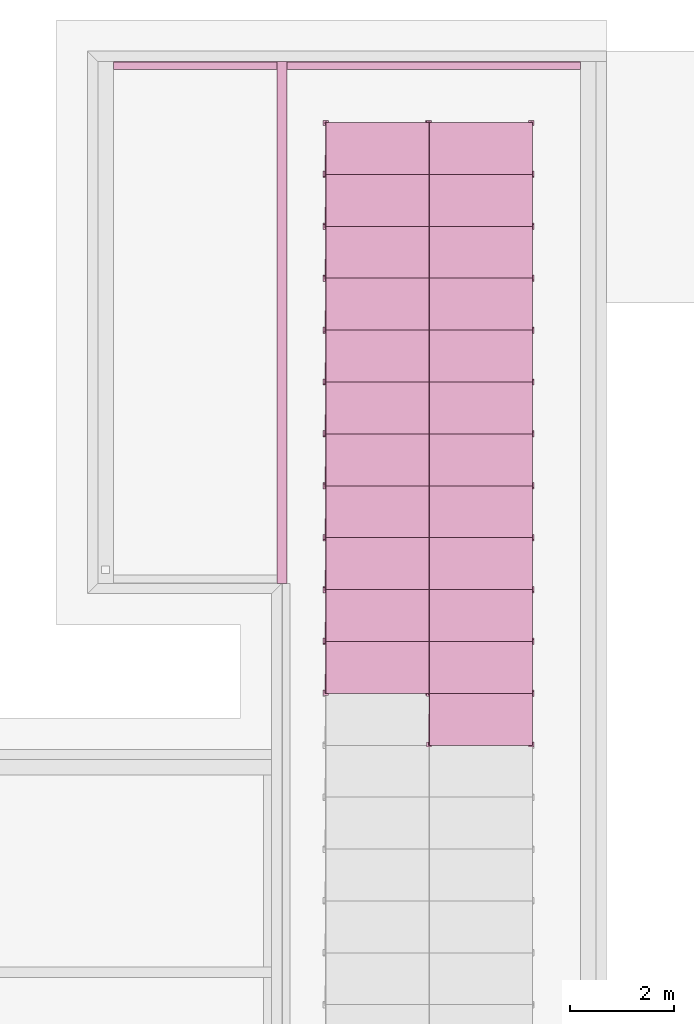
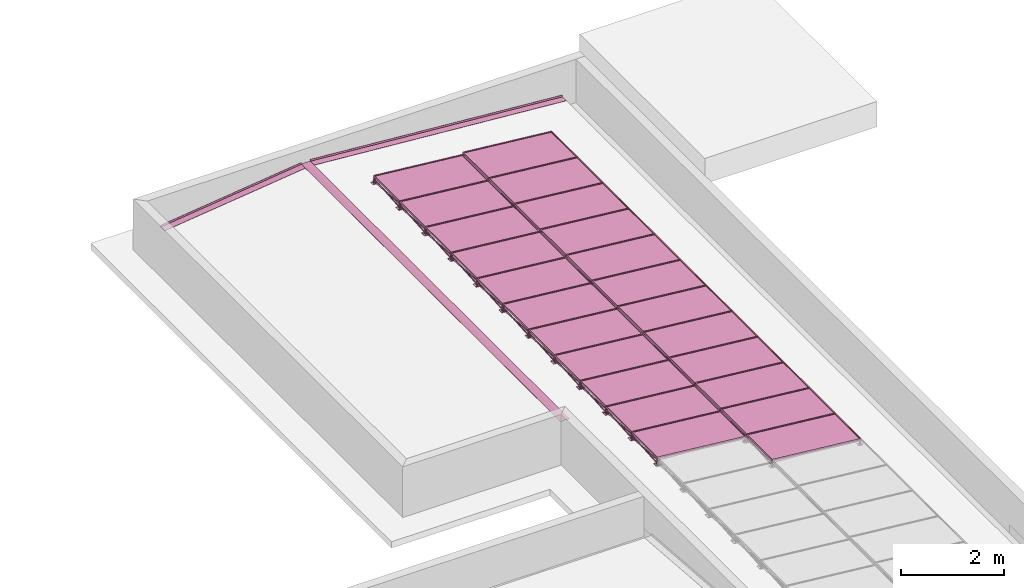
# One storey, part 5 of 5: 26 furnishings.
"""IFC2X3 building model written with IfcOpenShell, lengths in millimetres."""

import ifcopenshell
import ifcopenshell.guid

model = None  # the IFC model being written
_history = None  # IfcOwnerHistory: only IFC2X3 demands one
_inside = {}  # id of a spatial element -> (the spatial element, [elements in it])
_under = {}  # id of a project, library or spatial element -> (it, [spatial elements below it])
_declared = {}  # id of a project -> (the project, [libraries it declares])
_typed = {}  # id of a type object -> (the type object, [elements of that type])
_made_of = {}  # id of a material, layer set ... -> (it, [elements and type objects made of it])


def new_model(schema):
    """Start an empty IFC model of exactly this schema.

    Asked for "IFC4X3", IfcOpenShell would pick the latest addendum, in which some entities
    have other attributes; the version numbers below select the first issue.
    IFC2X3 requires an IfcOwnerHistory on every rooted entity: one is made here for all.
    """
    global model, _history
    if schema == "IFC4X3":
        model = ifcopenshell.file(schema_version=(4, 3, 0, 0))
    else:
        model = ifcopenshell.file(schema=schema)
    _inside.clear()
    _under.clear()
    _declared.clear()
    _typed.clear()
    _made_of.clear()
    _history = None
    if model.schema == "IFC2X3":
        org = make("IfcOrganization", Name="unknown")
        user = make(
            "IfcPersonAndOrganization",
            ThePerson=make("IfcPerson", FamilyName="unknown"),
            TheOrganization=org,
        )
        app = make(
            "IfcApplication",
            ApplicationDeveloper=org,
            Version="unknown",
            ApplicationFullName="unknown",
            ApplicationIdentifier="unknown",
        )
        _history = make(
            "IfcOwnerHistory",
            OwningUser=user,
            OwningApplication=app,
            ChangeAction="ADDED",
            CreationDate=0,
        )
    return model


def make(cls, **values):
    """One entity of the class cls with the attributes given. An attribute that is None is left unset."""
    return model.create_entity(
        cls, **{name: value for name, value in values.items() if value is not None}
    )


def entity(cls, *values):
    """Any entity or typed value of the class cls, its attributes in the order of the schema. None: left unset."""
    e = model.create_entity(cls)
    for i, value in enumerate(values):
        if value is not None:
            e[i] = value
    return e


def rooted(cls, **values):
    """An entity with a GlobalId (a new one), such as an element, a storey or a relation."""
    return make(cls, GlobalId=ifcopenshell.guid.new(), OwnerHistory=_history, **values)


def si_unit(unit_type, name, prefix=None):
    """IfcSIUnit, for example si_unit("LENGTHUNIT", "METRE", prefix="MILLI")."""
    return make("IfcSIUnit", UnitType=unit_type, Prefix=prefix, Name=name)


def converted_unit(unit_type, name, factor, base, dimensions=None, offset=None):
    """IfcConversionBasedUnit, such as the inch: factor (a typed value) times the base unit."""
    return make(
        "IfcConversionBasedUnit"
        if offset is None
        else "IfcConversionBasedUnitWithOffset",
        ConversionOffset=offset,
        Dimensions=None
        if dimensions is None
        else entity("IfcDimensionalExponents", *dimensions),
        UnitType=unit_type,
        Name=name,
        ConversionFactor=make(
            "IfcMeasureWithUnit", ValueComponent=factor, UnitComponent=base
        ),
    )


def derived_unit(unit_type, elements):
    """IfcDerivedUnit: a product of units, each with its exponent."""
    return make(
        "IfcDerivedUnit",
        Elements=[
            make("IfcDerivedUnitElement", Unit=unit, Exponent=power)
            for unit, power in elements
        ],
        UnitType=unit_type,
    )


def money_unit(currency):
    """IfcMonetaryUnit."""
    return make("IfcMonetaryUnit", Currency=currency)


def assignment(units):
    """IfcUnitAssignment: the units of a project."""
    return None if units is None else make("IfcUnitAssignment", Units=units)


def point(xyz):
    """IfcCartesianPoint."""
    return None if xyz is None else make("IfcCartesianPoint", Coordinates=xyz)


def direction(xyz):
    """IfcDirection."""
    return None if xyz is None else make("IfcDirection", DirectionRatios=xyz)


def frame(location, z_axis=None, x_axis=None):
    """IfcAxis2Placement3D, a coordinate frame: its origin and axes. An axis left out is left unset."""
    return make(
        "IfcAxis2Placement3D",
        Location=point(location),
        Axis=direction(z_axis),
        RefDirection=direction(x_axis),
    )


def origin_with_axes():
    """The frame at (0, 0, 0) with the z axis (0, 0, 1) and the x axis (1, 0, 0) written out."""
    return frame((0.0, 0.0, 0.0), z_axis=(0.0, 0.0, 1.0), x_axis=(1.0, 0.0, 0.0))


def place(relative_to, where):
    """IfcLocalPlacement: puts the frame where relative to a parent placement (None: the world)."""
    return make(
        "IfcLocalPlacement", PlacementRelTo=relative_to, RelativePlacement=where
    )


def context(
    kind, dimensions, precision=None, world=None, true_north=None, identifier=None
):
    """IfcGeometricRepresentationContext, for example the 3D "Model" context."""
    return make(
        "IfcGeometricRepresentationContext",
        ContextIdentifier=identifier,
        ContextType=kind,
        CoordinateSpaceDimension=dimensions,
        Precision=precision,
        WorldCoordinateSystem=world,
        TrueNorth=true_north,
    )


def subcontext(parent, identifier, kind, view, scale=None):
    """IfcGeometricRepresentationSubContext, for example "Body" below "Model"."""
    return make(
        "IfcGeometricRepresentationSubContext",
        ContextIdentifier=identifier,
        ContextType=kind,
        ParentContext=parent,
        TargetScale=scale,
        TargetView=view,
    )


def project(units=None, contexts=None):
    """IfcProject with its units and contexts."""
    return rooted(
        "IfcProject",
        Name="project",
        RepresentationContexts=contexts,
        UnitsInContext=assignment(units),
    )


def spatial(cls, under=None, at=None, **own):
    """A site, building, storey or space (cls), placed at a placement, below another one or the project."""
    s = rooted(cls, ObjectPlacement=at, **own)
    if under is not None:
        _under.setdefault(under.id(), (under, []))[1].append(s)
    return s


def polyline(points):
    """IfcPolyline through the points."""
    return make("IfcPolyline", Points=[point(p) for p in points])


def outline(outer, holes=None, kind="AREA"):
    """IfcArbitraryClosedProfileDef: a profile drawn as a closed curve; with holes, ...WithVoids."""
    if holes is None:
        return make("IfcArbitraryClosedProfileDef", ProfileType=kind, OuterCurve=outer)
    return make(
        "IfcArbitraryProfileDefWithVoids",
        ProfileType=kind,
        OuterCurve=outer,
        InnerCurves=holes,
    )


def extrude(swept, where, along, depth):
    """IfcExtrudedAreaSolid: the profile swept, set in the frame where, extruded along a direction by depth."""
    return make(
        "IfcExtrudedAreaSolid",
        SweptArea=swept,
        Position=where,
        ExtrudedDirection=direction(along),
        Depth=depth,
    )


def clip(a, b, op="DIFFERENCE"):
    """IfcBooleanClippingResult: the solid a cut by the half space b."""
    return make(
        "IfcBooleanClippingResult", Operator=op, FirstOperand=a, SecondOperand=b
    )


def halfspace(plane, agree):
    """IfcHalfSpaceSolid: all space on one side of the plane z = 0 of the frame plane."""
    return make(
        "IfcHalfSpaceSolid",
        BaseSurface=make("IfcPlane", Position=plane),
        AgreementFlag=agree,
    )


def faces_of(points, faces, orient=None, outer=None):
    """IfcFace entities. A face is a list of loops; a loop is a list of indices into points, from 0.

    orient and outer hold one flag for each loop. By default every Orientation is true, the
    first loop of a face is its IfcFaceOuterBound and the others are IfcFaceBound.
    """
    made = []
    for i, loops in enumerate(faces):
        bounds = []
        for j, loop in enumerate(loops):
            is_outer = j == 0 if outer is None else outer[i][j]
            bounds.append(
                make(
                    "IfcFaceOuterBound" if is_outer else "IfcFaceBound",
                    Bound=make("IfcPolyLoop", Polygon=[points[k] for k in loop]),
                    Orientation=True if orient is None else orient[i][j],
                )
            )
        made.append(make("IfcFace", Bounds=bounds))
    return made


def open_shell(faces, orient=None, outer=None):
    """The faces of one IfcOpenShell. surface_model builds it on its shared points."""
    return ("IfcOpenShell", faces, orient, outer)


def faceted_brep(points, faces, orient=None, outer=None, voids=None):
    """IfcFacetedBrep: a solid bounded by flat faces; with voids (closed shells), ...WithVoids."""
    shared = [point(p) for p in points]
    hull = make("IfcClosedShell", CfsFaces=faces_of(shared, faces, orient, outer))
    if voids is None:
        return make("IfcFacetedBrep", Outer=hull)
    return make(
        "IfcFacetedBrepWithVoids",
        Outer=hull,
        Voids=[
            make(cls, CfsFaces=faces_of(shared, fs, o, b)) for cls, fs, o, b in voids
        ],
    )


def surface_model(cls, points, shells):
    """IfcFaceBasedSurfaceModel or IfcShellBasedSurfaceModel (cls): surfaces that need not close."""
    shared = [point(p) for p in points]
    made = [make(c, CfsFaces=faces_of(shared, fs, o, b)) for c, fs, o, b in shells]
    if cls == "IfcFaceBasedSurfaceModel":
        return make(cls, FbsmFaces=made)
    return make(cls, SbsmBoundary=made)


def shape(context_of_items, identifier, shape_type, items):
    """IfcShapeRepresentation: the items that make up one representation, for example the "Body"."""
    return make(
        "IfcShapeRepresentation",
        ContextOfItems=context_of_items,
        RepresentationIdentifier=identifier,
        RepresentationType=shape_type,
        Items=items,
    )


def source(mapping_origin, context_of_items, identifier, shape_type, items):
    """IfcRepresentationMap: a shape defined once, which mapped items show again and again."""
    return make(
        "IfcRepresentationMap",
        MappingOrigin=mapping_origin,
        MappedRepresentation=shape(context_of_items, identifier, shape_type, items),
    )


def transform(
    local_origin,
    x_axis=None,
    y_axis=None,
    z_axis=None,
    scale=None,
    scale2=None,
    scale3=None,
    uniform=True,
):
    """IfcCartesianTransformationOperator3D, or its non-uniform kind. x_axis, y_axis, z_axis: its Axis1, 2, 3."""
    if uniform:
        return make(
            "IfcCartesianTransformationOperator3D",
            Axis1=direction(x_axis),
            Axis2=direction(y_axis),
            LocalOrigin=point(local_origin),
            Scale=scale,
            Axis3=direction(z_axis),
        )
    return make(
        "IfcCartesianTransformationOperator3DnonUniform",
        Axis1=direction(x_axis),
        Axis2=direction(y_axis),
        LocalOrigin=point(local_origin),
        Scale=scale,
        Axis3=direction(z_axis),
        Scale2=scale2,
        Scale3=scale3,
    )


def mapped(mapping_source, mapping_target):
    """IfcMappedItem: shows the shape of a source again, moved by a transform."""
    return make(
        "IfcMappedItem", MappingSource=mapping_source, MappingTarget=mapping_target
    )


def material(Name=None, Category=None):
    """IfcMaterial."""
    return make("IfcMaterial", Name=Name, Category=Category)


def made_of(thing, what):
    """Note that an element or type object is made of a material, layer set ...; save() writes the relation."""
    if what is not None:
        _made_of.setdefault(what.id(), (what, []))[1].append(thing)
    return thing


def type_object(cls, material=None, **own):
    """A type object (cls), such as IfcWallType, which elements share."""
    return made_of(rooted(cls, **own), material)


def element(
    cls,
    number,
    at=None,
    inside=None,
    cuts=None,
    type_object=None,
    material=None,
    context=None,
    identifier="Body",
    shape_type=None,
    held_by="IfcProductDefinitionShape",
    body=None,
    shapes=None,
    **own,
):
    """One element of the class cls, such as IfcWall. Its Tag is "e" and its number.

    at: its placement. inside: the storey or other place that contains it. cuts: it is an
    opening in that element (IfcRelVoidsElement). A single representation is given by context,
    identifier, shape_type and body (its items); several are given by shapes. held_by: the class
    of the entity that holds the representations. save() writes the other relations.
    """
    e = rooted(cls, Tag="e%d" % number, ObjectPlacement=at, **own)
    if body is not None:
        shapes = [shape(context, identifier, shape_type, body)]
    if shapes is not None:
        e.Representation = make(held_by, Representations=shapes)
    if inside is not None:
        _inside.setdefault(inside.id(), (inside, []))[1].append(e)
    if cuts is not None:
        rooted(
            "IfcRelVoidsElement", RelatingBuildingElement=cuts, RelatedOpeningElement=e
        )
    if type_object is not None:
        _typed.setdefault(type_object.id(), (type_object, []))[1].append(e)
    return made_of(e, material)


def aggregate(whole, parts):
    """IfcRelAggregates: a whole, such as a stair, and the parts it consists of."""
    return rooted("IfcRelAggregates", RelatingObject=whole, RelatedObjects=parts)


def save(model, path):
    """Write the relations noted so far, then the file.

    IfcRelAggregates (storeys below a building ...), IfcRelContainedInSpatialStructure (elements
    in a storey), IfcRelDefinesByType, IfcRelAssociatesMaterial and IfcRelDeclares: one each for
    every whole, place, type object, material and project.
    """
    for whole, parts in _under.values():
        aggregate(whole, parts)
    for where, things in _inside.values():
        rooted(
            "IfcRelContainedInSpatialStructure",
            RelatedElements=things,
            RelatingStructure=where,
        )
    for kind, things in _typed.values():
        rooted("IfcRelDefinesByType", RelatedObjects=things, RelatingType=kind)
    for what, things in _made_of.values():
        rooted("IfcRelAssociatesMaterial", RelatedObjects=things, RelatingMaterial=what)
    for by, libraries in _declared.values():
        rooted("IfcRelDeclares", RelatingContext=by, RelatedDefinitions=libraries)
    model.write(path)


model = new_model("IFC2X3")

# Units and contexts
model_context = context("Model", 3, precision=0.01, world=origin_with_axes(), true_north=direction((0.0, 1.0)))
body_context = subcontext(model_context, "Body", "Model", "MODEL_VIEW")
ifc_project = project(units=[si_unit("LENGTHUNIT", "METRE", prefix="MILLI"), si_unit("AREAUNIT", "SQUARE_METRE"), si_unit("VOLUMEUNIT", "CUBIC_METRE"), converted_unit("PLANEANGLEUNIT", "DEGREE", entity("IfcPlaneAngleMeasure", 0.0174532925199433), si_unit("PLANEANGLEUNIT", "RADIAN"), dimensions=[0, 0, 0, 0, 0, 0, 0]), money_unit("USD"), converted_unit("TIMEUNIT", "Year", entity("IfcTimeMeasure", 31556926.0), si_unit("TIMEUNIT", "SECOND"), dimensions=[0, 0, 1, 0, 0, 0, 0]), si_unit("MASSUNIT", "GRAM", prefix="KILO"), si_unit("THERMODYNAMICTEMPERATUREUNIT", "DEGREE_CELSIUS"), si_unit("LUMINOUSINTENSITYUNIT", "LUMEN"), si_unit("ENERGYUNIT", "JOULE", prefix="MEGA"), derived_unit("THERMALCONDUCTANCEUNIT", [(si_unit("POWERUNIT", "WATT"), 1), (si_unit("LENGTHUNIT", "METRE"), -1), (si_unit("THERMODYNAMICTEMPERATUREUNIT", "KELVIN"), -1)]), derived_unit("SPECIFICHEATCAPACITYUNIT", [(si_unit("ENERGYUNIT", "JOULE"), 1), (si_unit("MASSUNIT", "GRAM", prefix="KILO"), -1), (si_unit("THERMODYNAMICTEMPERATUREUNIT", "KELVIN"), -1)]), derived_unit("MASSDENSITYUNIT", [(si_unit("MASSUNIT", "GRAM", prefix="KILO"), 1), (si_unit("VOLUMEUNIT", "CUBIC_METRE"), -1)])], contexts=[model_context])

# Site, building, storey
site_placement = place(None, origin_with_axes())
site = spatial("IfcSite", under=ifc_project, at=site_placement, Name="Site", CompositionType="ELEMENT")
building_placement = place(site_placement, origin_with_axes())
building = spatial("IfcBuilding", under=site, at=building_placement, Name="Building", CompositionType="ELEMENT")
storey_placement = place(building_placement, frame((0.0, 0.0, 3650.0), z_axis=(0.0, 0.0, 1.0), x_axis=(1.0, 0.0, 0.0)))
storey = spatial("IfcBuildingStorey", under=building, at=storey_placement, Name="COBERTURA", CompositionType="ELEMENT", Elevation=3650.0)

# Furnishings
furnishing_element_type_1 = type_object("IfcFurnishingElementType", Name="Solar Photovoltaic Panel 26")
shared_shape = source(origin_with_axes(), body_context, "Body", "SurfaceModel", [
    faceted_brep([(0.0, -8.230649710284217, 99.4253300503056), (0.0, -10.2207240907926, 119.3260738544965), (-1000.0, -10.2207240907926, 119.3260738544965), (-1000.0, -8.230649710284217, 99.4253300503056), (0.0, 1981.84373070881, 298.4327681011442), (0.0, 1979.853656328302, 318.3335119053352), (-1000.0, 1979.853656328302, 318.3335119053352), (-1000.0, 1981.84373070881, 298.4327681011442)], [[[0, 1, 2, 3]], [[4, 5, 1, 0]], [[1, 5, 6, 2]], [[3, 2, 6, 7]], [[0, 3, 7, 4]], [[7, 6, 5, 4]]]),
    faceted_brep([(0.0, -10.2207240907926, 119.3260738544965), (0.0, -12.21079847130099, 139.2268176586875), (-1000.0, -12.21079847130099, 139.2268176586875), (-1000.0, -10.2207240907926, 119.3260738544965), (0.0, 1979.853656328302, 318.3335119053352), (0.0, 1977.863581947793, 338.2342557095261), (-1000.0, 1977.863581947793, 338.2342557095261), (-24.00000000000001, 11.67009409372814, 141.6149069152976), (-976.0, 11.67009409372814, 141.6149069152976), (-976.0, 1953.982689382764, 335.846166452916), (-24.00000000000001, 1953.982689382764, 335.846166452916), (-1000.0, 1979.853656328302, 318.3335119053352), (-24.00000000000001, 13.66016847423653, 121.7141631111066), (-24.00000000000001, 1955.972763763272, 315.9454226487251), (-976.0, 1955.972763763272, 315.9454226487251), (-976.0, 13.66016847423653, 121.7141631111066)], [[[0, 1, 2, 3]], [[4, 5, 1, 0]], [[1, 5, 6, 2], [7, 8, 9, 10]], [[3, 2, 6, 11]], [[0, 3, 11, 4], [12, 13, 14, 15]], [[11, 6, 5, 4]], [[15, 8, 7, 12]], [[14, 9, 8, 15]], [[13, 10, 9, 14]], [[12, 7, 10, 13]]]),
    faceted_brep([(-24.00000000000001, 13.41140917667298, 124.2017560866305), (-24.00000000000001, 12.91389058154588, 129.1769420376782), (-976.0, 12.91389058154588, 129.1769420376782), (-976.0, 13.41140917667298, 124.2017560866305), (-24.00000000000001, 1955.724004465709, 318.433015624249), (-24.00000000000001, 1955.226485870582, 323.4082015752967), (-976.0, 1955.226485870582, 323.4082015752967), (-976.0, 1955.724004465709, 318.433015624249)], [[[0, 1, 2, 3]], [[4, 5, 1, 0]], [[1, 5, 6, 2]], [[3, 2, 6, 7]], [[0, 3, 7, 4]], [[7, 6, 5, 4]]]),
    surface_model("IfcShellBasedSurfaceModel", [(-24.00000000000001, 13.53578882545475, 122.9579595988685), (-976.0, 13.53578882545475, 122.9579595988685), (-976.0, 1955.848384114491, 317.189219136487), (-24.00000000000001, 1955.848384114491, 317.189219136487)], [open_shell([[[0, 1, 2, 3]]])]),
    faceted_brep([(0.0, 1984.23181996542, 274.551875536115), (0.0, -5.842560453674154, 75.54443748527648), (-24.00000000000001, -5.842560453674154, 75.54443748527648), (-24.00000000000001, 1984.23181996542, 274.551875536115), (0.0, 1981.84373070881, 298.4327681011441), (0.0, -8.230649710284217, 99.4253300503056), (-24.00000000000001, -8.230649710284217, 99.4253300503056), (-24.00000000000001, 1981.84373070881, 298.4327681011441)], [[[0, 1, 2, 3]], [[4, 5, 1, 0]], [[1, 5, 6, 2]], [[3, 2, 6, 7]], [[0, 3, 7, 4]], [[7, 6, 5, 4]]]),
    faceted_brep([(-976.0, 1984.23181996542, 274.551875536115), (-976.0, -5.842560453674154, 75.54443748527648), (-1000.0, -5.842560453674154, 75.54443748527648), (-1000.0, 1984.23181996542, 274.551875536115), (-976.0, 1981.84373070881, 298.4327681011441), (-976.0, -8.230649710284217, 99.4253300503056), (-1000.0, -8.230649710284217, 99.4253300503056), (-1000.0, 1981.84373070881, 298.4327681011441)], [[[0, 1, 2, 3]], [[4, 5, 1, 0]], [[1, 5, 6, 2]], [[3, 2, 6, 7]], [[0, 3, 7, 4]], [[7, 6, 5, 4]]]),
    faceted_brep([(0.0, 16.86518774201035, 89.64131548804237), (4.99999999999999, 16.86518774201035, 89.64131548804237), (4.99999999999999, 23.52169846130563, 6.908668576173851), (-29.00000000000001, 23.52169846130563, 6.908668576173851), (-29.00000000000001, 16.86518774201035, 89.64131548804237), (-24.00000000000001, 16.86518774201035, 89.64131548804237), (-24.00000000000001, 19.75234901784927, 53.75727586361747), (0.0, 19.75234901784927, 53.75727586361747), (0.0, 12.68128001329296, 97.81738808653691), (4.99999999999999, 12.68128001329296, 97.81738808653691), (4.99999999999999, 3.941454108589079, 100.640274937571), (4.99999999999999, -4.234618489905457, 96.45636720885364), (4.99999999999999, -7.057505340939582, 87.71654130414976), (4.99999999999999, -0.4009946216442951, 4.983894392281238), (-29.00000000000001, -0.4009946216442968, 4.983894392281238), (-29.00000000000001, 3.941454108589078, 100.640274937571), (-29.00000000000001, 12.68128001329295, 97.81738808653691), (-29.00000000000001, -7.057505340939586, 87.71654130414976), (-29.00000000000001, -4.23461848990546, 96.45636720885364), (-24.00000000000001, 12.68128001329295, 97.81738808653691), (-24.00000000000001, 3.941454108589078, 100.640274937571), (-24.00000000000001, -4.23461848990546, 96.45636720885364), (-24.00000000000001, -7.057505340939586, 87.71654130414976), (-24.00000000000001, -4.170344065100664, 51.83250167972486), (0.0, -4.170344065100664, 51.83250167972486), (0.0, -7.057505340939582, 87.71654130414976), (0.0, -4.234618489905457, 96.45636720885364), (0.0, 3.941454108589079, 100.640274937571)], [[[0, 1, 2, 3, 4, 5, 6, 7]], [[8, 9, 1, 0]], [[9, 10, 11, 12, 13, 2, 1]], [[2, 13, 14, 3]], [[15, 16, 4, 3, 14, 17, 18]], [[5, 4, 16, 19]], [[5, 19, 20, 21, 22, 23, 6]], [[6, 23, 24, 7]], [[7, 24, 25, 26, 27, 8, 0]], [[27, 10, 9, 8]], [[26, 11, 10, 27]], [[25, 12, 11, 26]], [[24, 23, 22, 17, 14, 13, 12, 25]], [[19, 16, 15, 20]], [[21, 18, 17, 22]], [[20, 15, 18, 21]]]),
    faceted_brep([(37.99999999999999, -37.87759738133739, -3.04755912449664), (37.99999999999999, -38.27859200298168, 1.936335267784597), (-62.00000000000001, -38.27859200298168, 1.936335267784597), (-62.00000000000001, -37.87759738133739, -3.04755912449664), (37.99999999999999, 61.80029046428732, 4.972333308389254), (37.99999999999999, 61.39929584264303, 9.956227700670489), (-62.00000000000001, 61.39929584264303, 9.956227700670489), (-62.00000000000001, 61.80029046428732, 4.972333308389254)], [[[0, 1, 2, 3]], [[4, 5, 1, 0]], [[1, 5, 6, 2]], [[3, 2, 6, 7]], [[0, 3, 7, 4]], [[7, 6, 5, 4]]]),
    faceted_brep([(-976.0, 16.86518774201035, 89.64131548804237), (-971.0, 16.86518774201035, 89.64131548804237), (-971.0, 23.52169846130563, 6.908668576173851), (-1005.0, 23.52169846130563, 6.908668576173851), (-1005.0, 16.86518774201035, 89.64131548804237), (-1000.0, 16.86518774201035, 89.64131548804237), (-1000.0, 19.75234901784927, 53.75727586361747), (-976.0, 19.75234901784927, 53.75727586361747), (-976.0, 12.68128001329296, 97.81738808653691), (-971.0, 12.68128001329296, 97.81738808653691), (-971.0, 3.941454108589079, 100.640274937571), (-971.0, -4.234618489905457, 96.45636720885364), (-971.0, -7.057505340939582, 87.71654130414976), (-971.0, -0.4009946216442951, 4.983894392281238), (-1005.0, -0.4009946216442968, 4.983894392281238), (-1005.0, 3.941454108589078, 100.640274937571), (-1005.0, 12.68128001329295, 97.81738808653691), (-1005.0, -7.057505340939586, 87.71654130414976), (-1005.0, -4.23461848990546, 96.45636720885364), (-1000.0, 12.68128001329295, 97.81738808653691), (-1000.0, 3.941454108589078, 100.640274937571), (-1000.0, -4.23461848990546, 96.45636720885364), (-1000.0, -7.057505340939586, 87.71654130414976), (-1000.0, -4.170344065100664, 51.83250167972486), (-976.0, -4.170344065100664, 51.83250167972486), (-976.0000000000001, -7.057505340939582, 87.71654130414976), (-976.0000000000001, -4.234618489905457, 96.45636720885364), (-976.0000000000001, 3.941454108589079, 100.640274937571)], [[[0, 1, 2, 3, 4, 5, 6, 7]], [[8, 9, 1, 0]], [[9, 10, 11, 12, 13, 2, 1]], [[2, 13, 14, 3]], [[15, 16, 4, 3, 14, 17, 18]], [[5, 4, 16, 19]], [[5, 19, 20, 21, 22, 23, 6]], [[6, 23, 24, 7]], [[7, 24, 25, 26, 27, 8, 0]], [[27, 10, 9, 8]], [[26, 11, 10, 27]], [[25, 12, 11, 26]], [[24, 23, 22, 17, 14, 13, 12, 25]], [[19, 16, 15, 20]], [[21, 18, 17, 22]], [[20, 15, 18, 21]]]),
    faceted_brep([(-938.0, -37.87759738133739, -3.04755912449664), (-938.0, -38.27859200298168, 1.936335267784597), (-1038.0, -38.27859200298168, 1.936335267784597), (-1038.0, -37.87759738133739, -3.04755912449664), (-938.0, 61.80029046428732, 4.972333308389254), (-938.0, 61.39929584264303, 9.956227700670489), (-1038.0, 61.39929584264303, 9.956227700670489), (-1038.0, 61.80029046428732, 4.972333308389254)], [[[0, 1, 2, 3]], [[4, 5, 1, 0]], [[1, 5, 6, 2]], [[3, 2, 6, 7]], [[0, 3, 7, 4]], [[7, 6, 5, 4]]]),
    faceted_brep([(0.0, 1983.058675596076, 286.2606642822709), (4.99999999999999, 1983.058675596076, 286.2606642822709), (4.99999999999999, 1992.786757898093, 165.3519732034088), (-29.00000000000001, 1992.786757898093, 165.3519732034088), (-29.00000000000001, 1983.058675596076, 286.2606642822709), (-24.00000000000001, 1983.058675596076, 286.2606642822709), (-24.00000000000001, 1985.945836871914, 250.376624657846), (0.0, 1985.945836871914, 250.376624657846), (0.0, 1978.874767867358, 294.4367368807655), (4.99999999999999, 1978.874767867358, 294.4367368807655), (4.99999999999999, 1970.134941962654, 297.2596237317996), (4.99999999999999, 1961.95886936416, 293.0757160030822), (4.99999999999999, 1959.135982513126, 284.3358900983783), (4.99999999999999, 1968.864064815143, 163.4271990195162), (-29.00000000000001, 1968.864064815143, 163.4271990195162), (-29.00000000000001, 1970.134941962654, 297.2596237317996), (-29.00000000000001, 1978.874767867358, 294.4367368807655), (-29.00000000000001, 1959.135982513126, 284.3358900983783), (-29.00000000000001, 1961.95886936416, 293.0757160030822), (-24.00000000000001, 1978.874767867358, 294.4367368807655), (-24.00000000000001, 1970.134941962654, 297.2596237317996), (-24.00000000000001, 1961.95886936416, 293.0757160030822), (-24.00000000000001, 1959.135982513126, 284.3358900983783), (-24.00000000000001, 1962.023143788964, 248.4518504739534), (0.0, 1962.023143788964, 248.4518504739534), (0.0, 1959.135982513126, 284.3358900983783), (0.0, 1961.95886936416, 293.0757160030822), (0.0, 1970.134941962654, 297.2596237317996)], [[[0, 1, 2, 3, 4, 5, 6, 7]], [[8, 9, 1, 0]], [[9, 10, 11, 12, 13, 2, 1]], [[2, 13, 14, 3]], [[15, 16, 4, 3, 14, 17, 18]], [[5, 4, 16, 19]], [[5, 19, 20, 21, 22, 23, 6]], [[6, 23, 24, 7]], [[7, 24, 25, 26, 27, 8, 0]], [[27, 10, 9, 8]], [[26, 11, 10, 27]], [[25, 12, 11, 26]], [[24, 23, 22, 17, 14, 13, 12, 25]], [[19, 16, 15, 20]], [[21, 18, 17, 22]], [[20, 15, 18, 21]]]),
    faceted_brep([(37.99999999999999, 1931.38746205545, 155.3957455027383), (37.99999999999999, 1930.986467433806, 160.3796398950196), (-62.00000000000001, 1930.986467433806, 160.3796398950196), (-62.00000000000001, 1931.38746205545, 155.3957455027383), (37.99999999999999, 2031.065349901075, 163.4156379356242), (37.99999999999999, 2030.66435527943, 168.3995323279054), (-62.00000000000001, 2030.66435527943, 168.3995323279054), (-62.00000000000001, 2031.065349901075, 163.4156379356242)], [[[0, 1, 2, 3]], [[4, 5, 1, 0]], [[1, 5, 6, 2]], [[3, 2, 6, 7]], [[0, 3, 7, 4]], [[7, 6, 5, 4]]]),
    faceted_brep([(-976.0, 1983.058675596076, 286.2606642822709), (-971.0, 1983.058675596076, 286.2606642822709), (-971.0, 1992.786757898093, 165.3519732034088), (-1005.0, 1992.786757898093, 165.3519732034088), (-1005.0, 1983.058675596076, 286.2606642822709), (-1000.0, 1983.058675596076, 286.2606642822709), (-1000.0, 1985.945836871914, 250.376624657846), (-976.0, 1985.945836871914, 250.376624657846), (-976.0, 1978.874767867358, 294.4367368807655), (-971.0, 1978.874767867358, 294.4367368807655), (-971.0, 1970.134941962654, 297.2596237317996), (-971.0, 1961.95886936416, 293.0757160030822), (-971.0, 1959.135982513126, 284.3358900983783), (-971.0, 1968.864064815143, 163.4271990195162), (-1005.0, 1968.864064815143, 163.4271990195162), (-1005.0, 1970.134941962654, 297.2596237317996), (-1005.0, 1978.874767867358, 294.4367368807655), (-1005.0, 1959.135982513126, 284.3358900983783), (-1005.0, 1961.95886936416, 293.0757160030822), (-1000.0, 1978.874767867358, 294.4367368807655), (-1000.0, 1970.134941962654, 297.2596237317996), (-1000.0, 1961.95886936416, 293.0757160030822), (-1000.0, 1959.135982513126, 284.3358900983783), (-1000.0, 1962.023143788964, 248.4518504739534), (-976.0, 1962.023143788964, 248.4518504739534), (-976.0, 1959.135982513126, 284.3358900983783), (-976.0, 1961.95886936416, 293.0757160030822), (-976.0, 1970.134941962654, 297.2596237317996)], [[[0, 1, 2, 3, 4, 5, 6, 7]], [[8, 9, 1, 0]], [[9, 10, 11, 12, 13, 2, 1]], [[2, 13, 14, 3]], [[15, 16, 4, 3, 14, 17, 18]], [[5, 4, 16, 19]], [[5, 19, 20, 21, 22, 23, 6]], [[6, 23, 24, 7]], [[7, 24, 25, 26, 27, 8, 0]], [[27, 10, 9, 8]], [[26, 11, 10, 27]], [[25, 12, 11, 26]], [[24, 23, 22, 17, 14, 13, 12, 25]], [[19, 16, 15, 20]], [[21, 18, 17, 22]], [[20, 15, 18, 21]]]),
    faceted_brep([(-938.0, 1931.38746205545, 155.3957455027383), (-938.0, 1930.986467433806, 160.3796398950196), (-1038.0, 1930.986467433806, 160.3796398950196), (-1038.0, 1931.38746205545, 155.3957455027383), (-938.0, 2031.065349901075, 163.4156379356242), (-938.0, 2030.66435527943, 168.3995323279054), (-1038.0, 2030.66435527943, 168.3995323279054), (-1038.0, 2031.065349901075, 163.4156379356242)], [[[0, 1, 2, 3]], [[4, 5, 1, 0]], [[1, 5, 6, 2]], [[3, 2, 6, 7]], [[0, 3, 7, 4]], [[7, 6, 5, 4]]]),
    faceted_brep([(-24.00000000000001, 1962.189078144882, 246.3894804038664), (0.0, 1962.189078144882, 246.3894804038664), (0.0, 1296.987755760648, 205.8274691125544), (-24.00000000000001, 1296.987755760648, 205.8274691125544), (-24.00000000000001, 1960.263942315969, 270.3166683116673), (0.0, 1960.263942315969, 270.3166683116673), (0.0, 1913.152710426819, 267.4439645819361), (-24.00000000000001, 1913.152710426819, 267.4439645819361)], [[[0, 1, 2, 3]], [[1, 0, 4, 5]], [[1, 5, 6, 2]], [[2, 6, 7, 3]], [[4, 0, 3, 7]], [[5, 4, 7, 6]]]),
    faceted_brep([(-1000.0, 1962.189078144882, 246.3894804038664), (-976.0, 1962.189078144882, 246.3894804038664), (-976.0, 1296.987755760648, 205.8274691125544), (-1000.0, 1296.987755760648, 205.8274691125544), (-1000.0, 1960.263942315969, 270.3166683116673), (-976.0, 1960.263942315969, 270.3166683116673), (-976.0, 1913.152710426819, 267.4439645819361), (-1000.0, 1913.152710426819, 267.4439645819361)], [[[0, 1, 2, 3]], [[1, 0, 4, 5]], [[1, 5, 6, 2]], [[2, 6, 7, 3]], [[4, 0, 3, 7]], [[5, 4, 7, 6]]]),
    faceted_brep([(-29.00000000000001, 1974.257011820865, 246.0271140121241), (-29.00000000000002, 1972.328395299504, 269.9975628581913), (-971.0, 1977.104336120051, 210.6382014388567), (-971.0, 1979.032952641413, 186.6677525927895), (-29.00000000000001, 1986.21835836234, 246.9895011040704), (-29.00000000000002, 1984.289741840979, 270.9599499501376), (-971.0, 1989.065682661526, 211.600588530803), (-971.0, 1990.994299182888, 187.6301396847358)], [[[0, 1, 2, 3]], [[1, 0, 4, 5]], [[1, 5, 6, 2]], [[2, 6, 7, 3]], [[4, 0, 3, 7]], [[5, 4, 7, 6]]]),
    faceted_brep([(-971.0, 1960.367048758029, 269.035175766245), (-971.0, 1962.29566527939, 245.0647269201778), (-29.00000000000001, 1967.071606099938, 185.7053655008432), (-29.00000000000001, 1965.142989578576, 209.6758143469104), (-971.0, 1972.328395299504, 269.9975628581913), (-971.0, 1974.257011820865, 246.0271140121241), (-29.00000000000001, 1979.032952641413, 186.6677525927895), (-29.00000000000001, 1977.104336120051, 210.6382014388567)], [[[0, 1, 2, 3]], [[0, 4, 5, 1]], [[1, 5, 6, 2]], [[3, 2, 6, 7]], [[4, 0, 3, 7]], [[5, 4, 7, 6]]]),
])
for number, where, z_axis, x_axis, name in (
    (1, (248598.3973941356, 1456.240123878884, 651.0244237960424), (0.0, 0.0, 1.0), (0.0, 1.0, 0.0), "Painel Solar"),
    (2, (250591.5851466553, -543.7598761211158, 503.5244237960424), (0.0, 0.0, 1.0), (0.0, 1.0, 0.0), "Painel Solar"),
    (3, (248598.3973941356, -4543.759876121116, 651.0244237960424), (0.0, 0.0, 1.0), (0.0, 1.0, 0.0), "Painel Solar"),
    (4, (250591.5851466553, 1456.240123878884, 503.5244237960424), (0.0, 0.0, 1.0), (0.0, 1.0, 0.0), "Painel Solar"),
    (5, (248598.3973941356, 2456.240123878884, 651.0244237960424), (0.0, 0.0, 1.0), (0.0, 1.0, 0.0), "Painel Solar"),
    (6, (250591.5851466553, 3456.240123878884, 503.5244237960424), (0.0, 0.0, 1.0), (0.0, 1.0, 0.0), "Painel Solar"),
    (7, (250591.5851466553, 4456.240123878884, 503.5244237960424), (0.0, 0.0, 1.0), (0.0, 1.0, 0.0), "Painel Solar"),
    (8, (248598.3973941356, 3456.240123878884, 651.0244237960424), (0.0, 0.0, 1.0), (0.0, 1.0, 0.0), "Painel Solar"),
    (9, (248598.3973941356, 4456.240123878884, 651.0244237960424), (0.0, 0.0, 1.0), (0.0, 1.0, 0.0), "Painel Solar"),
    (10, (250591.5851466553, 2456.240123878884, 503.5244237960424), (0.0, 0.0, 1.0), (0.0, 1.0, 0.0), "Painel Solar"),
    (11, (248598.3973941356, -2543.759876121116, 651.0244237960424), (0.0, 0.0, 1.0), (0.0, 1.0, 0.0), "Painel Solar"),
    (12, (250591.5851466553, -6543.759876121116, 503.5244237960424), (0.0, 0.0, 1.0), (0.0, 1.0, 0.0), "Painel Solar"),
    (13, (250591.5851466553, -2543.759876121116, 503.5244237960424), (0.0, 0.0, 1.0), (0.0, 1.0, 0.0), "Painel Solar"),
    (14, (248598.3973941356, -1543.759876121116, 651.0244237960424), (0.0, 0.0, 1.0), (0.0, 1.0, 0.0), "Painel Solar"),
    (15, (250591.5851466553, -1543.759876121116, 503.5244237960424), (0.0, 0.0, 1.0), (0.0, 1.0, 0.0), "Painel Solar"),
    (16, (250591.5851466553, 456.2401238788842, 503.5244237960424), (0.0, 0.0, 1.0), (0.0, 1.0, 0.0), "Painel Solar"),
    (17, (248598.3973941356, 456.2401238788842, 651.0244237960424), (0.0, 0.0, 1.0), (0.0, 1.0, 0.0), "Painel Solar"),
    (18, (248598.3973941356, -3543.759876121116, 651.0244237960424), (0.0, 0.0, 1.0), (0.0, 1.0, 0.0), "Painel Solar"),
    (19, (250591.5851466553, -4543.759876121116, 503.5244237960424), (0.0, 0.0, 1.0), (0.0, 1.0, 0.0), "Painel Solar"),
    (20, (248598.3973941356, -5543.759876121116, 651.0244237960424), (0.0, 0.0, 1.0), (0.0, 1.0, 0.0), "Painel Solar"),
    (21, (250591.5851466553, -3543.759876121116, 503.5244237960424), (0.0, 0.0, 1.0), (0.0, 1.0, 0.0), "Painel Solar"),
    (22, (248598.3973941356, -543.7598761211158, 651.0244237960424), (0.0, 0.0, 1.0), (0.0, 1.0, 0.0), "Painel Solar"),
    (23, (250591.5851466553, -5543.759876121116, 503.5244237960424), (0.0, 0.0, 1.0), (0.0, 1.0, 0.0), "Painel Solar"),
):
    element("IfcFurnishingElement", number, at=place(storey_placement, frame(where, z_axis=z_axis, x_axis=x_axis)), inside=storey, type_object=furnishing_element_type_1, Name=name, context=body_context, shape_type="MappedRepresentation", body=[
        mapped(shared_shape, transform((0.0, 0.0, 0.0))),
    ])
ifc_material = material(Name="_GRANILITE")
furnishing_element_type_2 = type_object("IfcFurnishingElementType", Name="Rufo Metálico 155 x 50")
furnishing_1_placement = place(storey_placement, frame((245876.7908368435, 5631.240123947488, 864.5772392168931), z_axis=(0.0, 0.0, 1.0), x_axis=(0.0, -1.0, 0.0)))
element("IfcFurnishingElement", 24, at=furnishing_1_placement, inside=storey, type_object=furnishing_element_type_2, material=ifc_material, Name="Rufo", context=body_context, shape_type="Clipping", body=[
    clip(clip(extrude(outline(polyline([(-155.0, 4.999999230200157), (-155.0, -7.697998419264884e-07), (0.0, -7.697998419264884e-07), (0.0, 49.99999923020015), (-4.999999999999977, 49.99999923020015), (-4.999999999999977, 4.999999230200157), (-155.0, 4.999999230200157)])), frame((0.0, 5665.000899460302, -453.6659692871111), z_axis=(0.0, 0.9968087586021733, -0.07982667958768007), x_axis=(-1.0, 0.0, 0.0)), (0.0, 0.0, -1.0), 5700.69143777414), halfspace(frame((0.0, 0.0, 0.0), z_axis=(0.0, 1.0, 0.0), x_axis=(0.0, 0.0, 1.0)), True)), halfspace(frame((0.0, 5647.502643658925, 0.0), z_axis=(0.0, -1.0, 0.0), x_axis=(0.0, 0.0, -1.0)), True)),
])
furnishing_2_placement = place(storey_placement, frame((245676.7908368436, 5631.240123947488, 861.0429239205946), z_axis=(0.0, 0.0, 1.0), x_axis=(0.0, 1.0, 0.0)))
element("IfcFurnishingElement", 25, at=furnishing_2_placement, inside=storey, type_object=furnishing_element_type_2, material=ifc_material, Name="Rufo", context=body_context, shape_type="Clipping", body=[
    clip(clip(extrude(outline(polyline([(-155.0, 4.999999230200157), (-155.0, -7.697998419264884e-07), (0.0, -7.697998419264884e-07), (0.0, 49.99999923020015), (-4.999999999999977, 49.99999923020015), (-4.999999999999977, 4.999999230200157), (-155.0, 4.999999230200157)])), frame((0.0, 3176.337626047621, -384.5245947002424), z_axis=(0.0, -0.9927519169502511, 0.1201816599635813), x_axis=(1.0, 0.0, 0.0)), (0.0, 0.0, 1.0), 3226.064602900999), halfspace(frame((0.0, 0.0, 0.0), z_axis=(0.0, 1.0, 0.0), x_axis=(0.0, 0.0, 1.0)), True)), halfspace(frame((0.0, 3149.993433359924, 0.0), z_axis=(0.0, -1.0, 0.0), x_axis=(0.0, 0.0, -1.0)), True)),
])
furnishing_element_type_3 = type_object("IfcFurnishingElementType", Name="Rufo Metálico Central 10% 200 x 15")
furnishing_3_placement = place(storey_placement, frame((245776.7908368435, 5631.240123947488, 873.1285542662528), z_axis=(0.0, 0.0, 1.0), x_axis=(-1.0, 0.0, 0.0)))
element("IfcFurnishingElement", 26, at=furnishing_3_placement, inside=storey, type_object=furnishing_element_type_3, material=ifc_material, Name="Cumeeira em Fibrocimento", context=body_context, shape_type="SweptSolid", body=[
    extrude(outline(polyline([(0.0, 5.024937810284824), (-100.0, -4.975062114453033), (-100.0, -9.999999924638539), (0.0, 0.0), (100.0, -9.999999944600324), (100.0, -4.975062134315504), (0.0, 5.024937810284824)])), frame((0.0, 10053.44024991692, 0.0), z_axis=(0.0, 1.0, 0.0), x_axis=(-1.0, 0.0, 0.0)), (0.0, 0.0, -1.0), 10053.44024991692),
])

save(model, "model.ifc")
